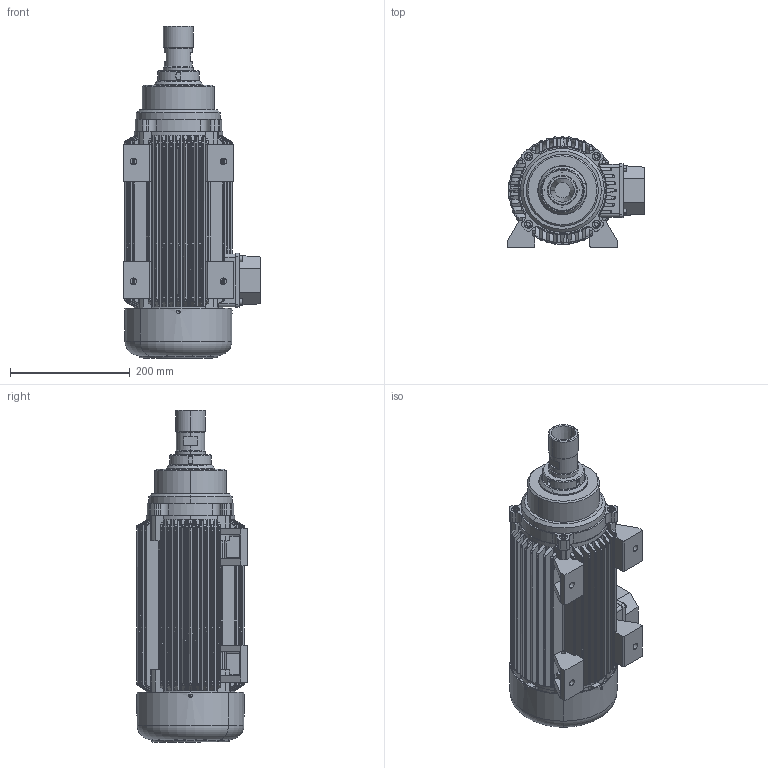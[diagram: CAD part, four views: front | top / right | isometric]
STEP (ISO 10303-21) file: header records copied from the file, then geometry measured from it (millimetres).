
FILE_DESCRIPTION (( 'STEP AP203' ), '1' );
FILE_NAME ('ARFM.6Y-L Montaj ER 40.STEP', '2024-04-18T11:04:13', ( '' ), ( '' ), 'SwSTEP 2.0', 'SolidWorks 2014', '' );
FILE_SCHEMA (( 'CONFIG_CONTROL_DESIGN' ));
Length unit declared in the file: millimetre
Products named in the file (11): 6Y 琄 Toz Kapak; ARFM.6Y-L Montaj ER 40; 6Y Rotor Mili ER40; 6Y Gövde; M8x25 inpus_96144A215; 6Y Arka Kapak; e2 tas kapak; 6Y 琄 Kilitleme Somunu; M6x16 inpus_91290A330; 6Y Klemens Kapak; 6Y 琄 Kapak Yeni
Assembly tree (16 placements, depth 2):
  ARFM.6Y-L Montaj ER 40
    6Y Gövde
    6Y 琄 Kilitleme Somunu
    6Y 琄 Toz Kapak
    6Y Arka Kapak
    6Y Klemens Kapak
    6Y Rotor Mili ER40
    e2 tas kapak
    6Y 琄 Kapak Yeni
    M8x25 inpus_96144A215  x4
    M6x16 inpus_91290A330  x4
Bounding box: 228.5 x 185 x 554 mm (x, y, z)
Volume: 4238266.1 mm3; surface area: 1062272.2 mm2
Topology: 16 solids, 16 shells, 2803 faces, 7640 edges, 4908 vertices
Faces by surface type: cylinder 1568, plane 795, cone 253, torus 104, bspline 75, sphere 8
Entity records: 79162 total; most frequent: CARTESIAN_POINT 26327, ORIENTED_EDGE 11556, DIRECTION 9828, EDGE_CURVE 5778, VERTEX_POINT 3714, AXIS2_PLACEMENT_3D 3457, LINE 2914, VECTOR 2914
